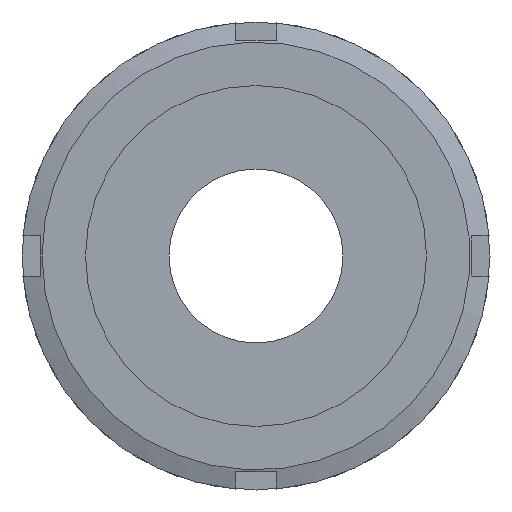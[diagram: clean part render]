
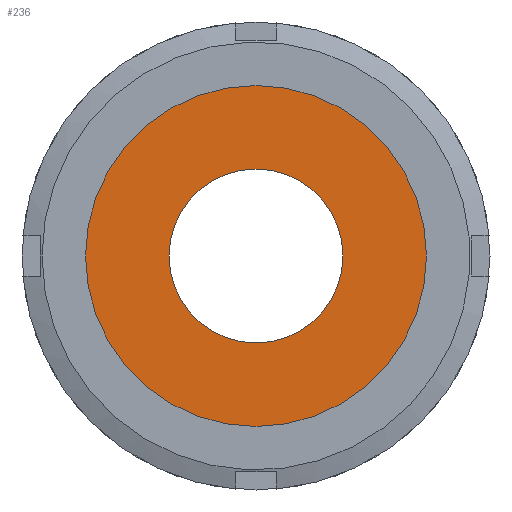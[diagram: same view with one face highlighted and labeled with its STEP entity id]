
A CAD part, left-side view. The second image highlights one B-rep face of the part: STEP entity #236.
In plain terms, the highlighted planar face has unit normal (-1, 0, 0) as drawn and (0, -1, 0) by its records, which use the part's own axes.
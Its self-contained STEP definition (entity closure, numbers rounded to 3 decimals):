
#236 = ADVANCED_FACE( '', ( #342, #343 ), #344, .T. );
#342 = FACE_OUTER_BOUND( '', #497, .T. );
#343 = FACE_BOUND( '', #498, .T. );
#344 = PLANE( '', #499 );
#497 = EDGE_LOOP( '', ( #795 ) );
#498 = EDGE_LOOP( '', ( #796 ) );
#499 = AXIS2_PLACEMENT_3D( '', #797, #798, #799 );
#795 = ORIENTED_EDGE( '', *, *, #1079, .T. );
#796 = ORIENTED_EDGE( '', *, *, #1080, .F. );
#797 = CARTESIAN_POINT( '', ( 13., 0., 0. ) );
#798 = DIRECTION( '', ( 0., -1., 0. ) );
#799 = DIRECTION( '', ( 0., 0., -1. ) );
#1079 = EDGE_CURVE( '', #1252, #1252, #1253, .T. );
#1080 = EDGE_CURVE( '', #1254, #1254, #1255, .T. );
#1252 = VERTEX_POINT( '', #1616 );
#1253 = CIRCLE( '', #1617, 25.5 );
#1254 = VERTEX_POINT( '', #1618 );
#1255 = CIRCLE( '', #1619, 13. );
#1616 = CARTESIAN_POINT( '', ( 0., 0., -25.5 ) );
#1617 = AXIS2_PLACEMENT_3D( '', #1863, #1864, #1865 );
#1618 = CARTESIAN_POINT( '', ( 0., 0., -13. ) );
#1619 = AXIS2_PLACEMENT_3D( '', #1866, #1867, #1868 );
#1863 = CARTESIAN_POINT( '', ( 0., 0., 0. ) );
#1864 = DIRECTION( '', ( 0., -1., 0. ) );
#1865 = DIRECTION( '', ( 0., 0., -1. ) );
#1866 = CARTESIAN_POINT( '', ( 0., 0., 0. ) );
#1867 = DIRECTION( '', ( 0., -1., 0. ) );
#1868 = DIRECTION( '', ( 0., 0., -1. ) );
